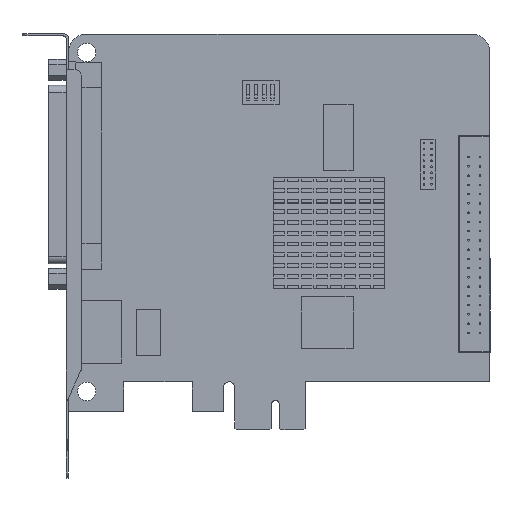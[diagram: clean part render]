
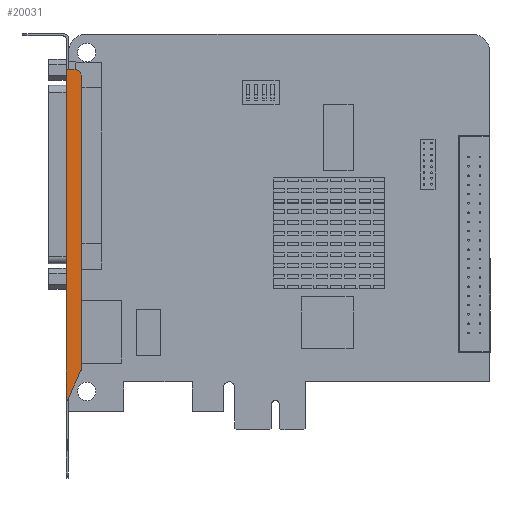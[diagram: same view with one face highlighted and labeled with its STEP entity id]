
A CAD part, top view. The second image highlights one B-rep face of the part: STEP entity #20031.
In plain terms, the highlighted planar face has unit normal (0, 0, 1).
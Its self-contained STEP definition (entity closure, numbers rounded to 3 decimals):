
#61 = EDGE_CURVE ( 'NONE', #23780, #20768, #13598, .T. ) ;
#568 = LINE ( 'NONE', #2721, #27928 ) ;
#850 = ORIENTED_EDGE ( 'NONE', *, *, #24688, .T. ) ;
#1409 = CARTESIAN_POINT ( 'NONE',  ( -57.5, -46., 20.3 ) ) ;
#2721 = CARTESIAN_POINT ( 'NONE',  ( -57.5, 44., 20.3 ) ) ;
#4513 = CARTESIAN_POINT ( 'NONE',  ( -57.5, 44., 20.3 ) ) ;
#4561 = LINE ( 'NONE', #13247, #27194 ) ;
#4598 = EDGE_CURVE ( 'NONE', #23212, #6254, #5642, .T. ) ;
#4713 = EDGE_CURVE ( 'NONE', #20768, #27653, #568, .T. ) ;
#5642 = CIRCLE ( 'NONE', #14306, 2. ) ;
#6254 = VERTEX_POINT ( 'NONE', #23452 ) ;
#7038 = CARTESIAN_POINT ( 'NONE',  ( -57.5, -46., 20.3 ) ) ;
#7253 = DIRECTION ( 'NONE',  ( 0., 1., 0. ) ) ;
#8334 = VECTOR ( 'NONE', #19039, 1000. ) ;
#8388 = AXIS2_PLACEMENT_3D ( 'NONE', #14926, #16763, #23585 ) ;
#8493 = PLANE ( 'NONE',  #8388 ) ;
#10217 = LINE ( 'NONE', #18900, #8334 ) ;
#10623 = CARTESIAN_POINT ( 'NONE',  ( -53.5, -37.156, 20.3 ) ) ;
#10973 = DIRECTION ( 'NONE',  ( 0., -1., 0. ) ) ;
#12254 = CARTESIAN_POINT ( 'NONE',  ( -53.5, 42., 20.3 ) ) ;
#12279 = DIRECTION ( 'NONE',  ( 0., 0., 1. ) ) ;
#12412 = CARTESIAN_POINT ( 'NONE',  ( -54.5, -37.156, 20.3 ) ) ;
#12442 = ORIENTED_EDGE ( 'NONE', *, *, #4713, .F. ) ;
#12611 = ORIENTED_EDGE ( 'NONE', *, *, #4598, .T. ) ;
#13175 = DIRECTION ( 'NONE',  ( -0.421, -0.907, 0. ) ) ;
#13247 = CARTESIAN_POINT ( 'NONE',  ( -53.5, 44., 20.3 ) ) ;
#13598 = LINE ( 'NONE', #7038, #21116 ) ;
#14306 = AXIS2_PLACEMENT_3D ( 'NONE', #15120, #19800, #10973 ) ;
#14926 = CARTESIAN_POINT ( 'NONE',  ( -53.5, 44., 20.3 ) ) ;
#15120 = CARTESIAN_POINT ( 'NONE',  ( -55.5, 42., 20.3 ) ) ;
#16294 = CARTESIAN_POINT ( 'NONE',  ( -53.593, -37.577, 20.3 ) ) ;
#16763 = DIRECTION ( 'NONE',  ( 0., 0., 1. ) ) ;
#16820 = EDGE_CURVE ( 'NONE', #20011, #23212, #4561, .T. ) ;
#17114 = DIRECTION ( 'NONE',  ( 0., -1., 0. ) ) ;
#17178 = EDGE_LOOP ( 'NONE', ( #21719, #18500, #23413, #12611, #850, #12442 ) ) ;
#18500 = ORIENTED_EDGE ( 'NONE', *, *, #27291, .T. ) ;
#18900 = CARTESIAN_POINT ( 'NONE',  ( -53.5, 44., 20.3 ) ) ;
#19039 = DIRECTION ( 'NONE',  ( -1., 0., 0. ) ) ;
#19304 = CIRCLE ( 'NONE', #21577, 1. ) ;
#19800 = DIRECTION ( 'NONE',  ( 0., 0., 1. ) ) ;
#20011 = VERTEX_POINT ( 'NONE', #10623 ) ;
#20031 = ADVANCED_FACE ( 'NONE', ( #20876 ), #8493, .T. ) ;
#20768 = VERTEX_POINT ( 'NONE', #1409 ) ;
#20876 = FACE_OUTER_BOUND ( 'NONE', #17178, .T. ) ;
#21116 = VECTOR ( 'NONE', #13175, 1000. ) ;
#21577 = AXIS2_PLACEMENT_3D ( 'NONE', #12412, #12279, #17114 ) ;
#21719 = ORIENTED_EDGE ( 'NONE', *, *, #61, .F. ) ;
#22497 = DIRECTION ( 'NONE',  ( 0., 1., 0. ) ) ;
#23212 = VERTEX_POINT ( 'NONE', #12254 ) ;
#23413 = ORIENTED_EDGE ( 'NONE', *, *, #16820, .T. ) ;
#23452 = CARTESIAN_POINT ( 'NONE',  ( -55.5, 44., 20.3 ) ) ;
#23585 = DIRECTION ( 'NONE',  ( 0., -1., 0. ) ) ;
#23780 = VERTEX_POINT ( 'NONE', #16294 ) ;
#24688 = EDGE_CURVE ( 'NONE', #6254, #27653, #10217, .T. ) ;
#27194 = VECTOR ( 'NONE', #7253, 1000. ) ;
#27291 = EDGE_CURVE ( 'NONE', #23780, #20011, #19304, .T. ) ;
#27653 = VERTEX_POINT ( 'NONE', #4513 ) ;
#27928 = VECTOR ( 'NONE', #22497, 1000. ) ;
